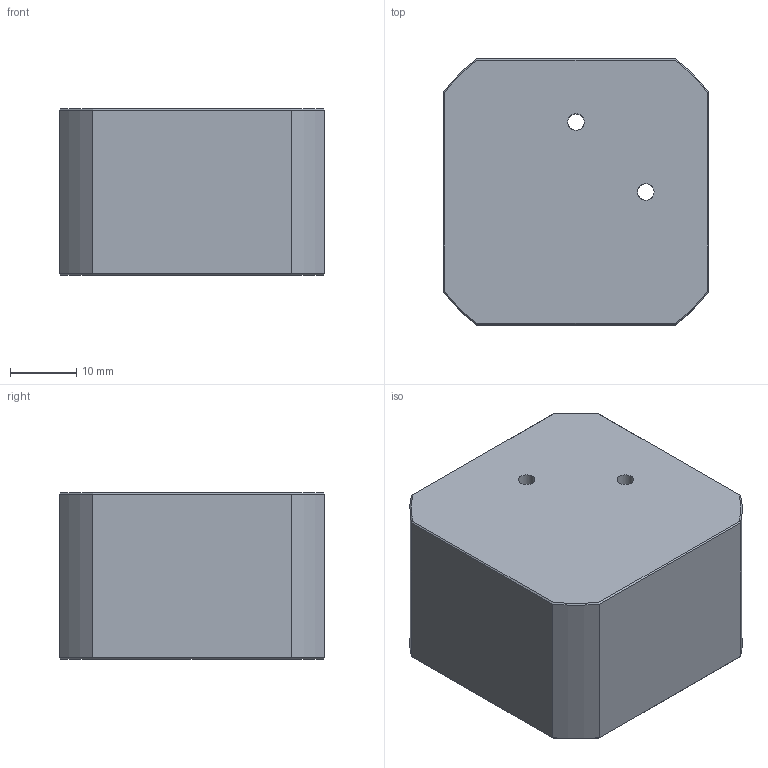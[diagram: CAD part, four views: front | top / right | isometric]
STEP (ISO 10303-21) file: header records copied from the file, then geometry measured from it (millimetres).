
FILE_DESCRIPTION(/* description */ (''),/* implementation_level */ '2;1');
FILE_NAME(/* name */ 'FIT.ELB.M16.10000.stp',/* time_stamp */ '2026-07-09T21:41:58+02:00',/* author */ ('janos'),/* organization */ (''),/* preprocessor_version */ 'ST-DEVELOPER v19.2',/* originating_system */ 'Autodesk Inventor 2024',/* authorisation */ '');
FILE_SCHEMA (('AUTOMOTIVE_DESIGN { 1 0 10303 214 3 1 1 }'));
Length unit declared in the file: millimetre
Products named in the file (1): W.16.1-4.4000
Bounding box: 40 x 40 x 25 mm (x, y, z)
Volume: 34752.8 mm3; surface area: 8125.9 mm2
Topology: 1 solids, 1 shells, 56 faces, 148 edges, 91 vertices
Faces by surface type: cylinder 18, cone 16, plane 16, torus 6
Full cylindrical faces by diameter (mm): 2 x1, 2.5 x4, 3 x1, 14.376 x2
Entity records: 2039 total; most frequent: CARTESIAN_POINT 673, ORIENTED_EDGE 292, DIRECTION 265, EDGE_CURVE 146, AXIS2_PLACEMENT_3D 112, VERTEX_POINT 91, EDGE_LOOP 65, FACE_OUTER_BOUND 56
